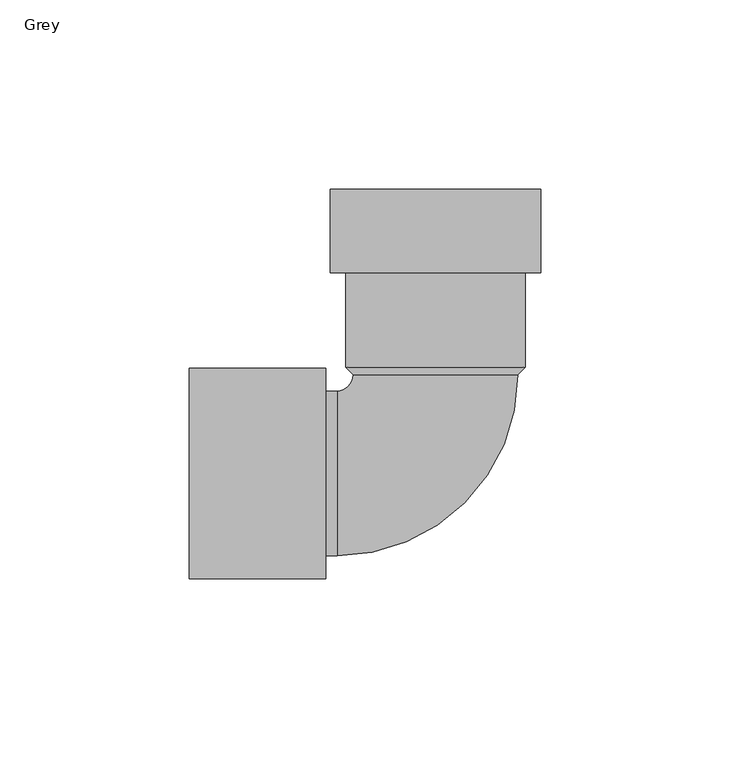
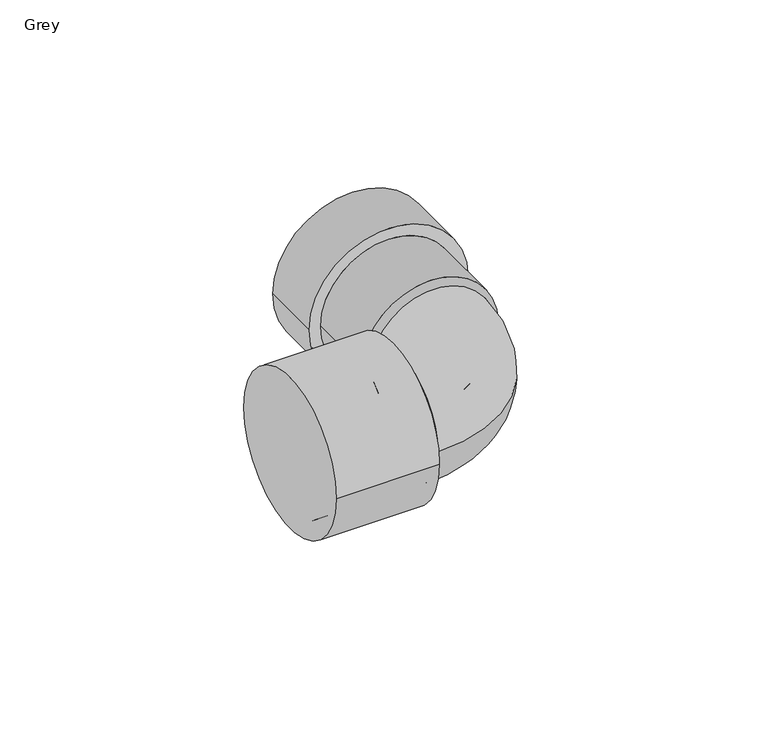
"""IFC4 building model written with IfcOpenShell, lengths in millimetres: pipe fitting geometry, Wavin_PipeFitting_AsPlusBendForLinkManifold : Grey."""

from ifc_helpers import new_model, si_unit, point, frame, origin, origin_2d, place, context, project, spatial, polyline, circle_curve, ellipse_curve, trimmed, segment, composite_curve, outline, extrude, source, transform, mapped, element, save
from ifc_brep_helpers import plane_surface, cylinder_surface, revolved_surface, advanced_brep


def grey_42b30d7e(model_context):
    return source(origin(), model_context, "Body", "SolidModel", [
        advanced_brep(
        [(23.75, 28.0, 0.0), (-23.75, 28.0, 0.0), (-23.75, 53.0, 0.0), (23.75, 53.0, 0.0), (-21.75, 26.0, 0.0), (21.75, 26.0, 0.0), (21.75, 75.0, 0.0), (-21.75, 75.0, 0.0), (27.75, 75.0, 0.0), (-27.75, 75.0, 0.0), (27.75, 53.0, 0.0), (-27.75, 53.0, 0.0)],
        [
            (0, 1, circle_curve(frame((0.0, 28.0, 0.0), z_axis=(0.0, 1.0, 0.0), x_axis=(1.0, 0.0, 0.0)), 23.75)),
            (1, 2),
            (2, 3, circle_curve(frame((0.0, 53.0, 0.0), z_axis=(0.0, -1.0, 0.0), x_axis=(1.0, 0.0, 0.0)), 23.75)),
            (3, 0),
            (4, 5, circle_curve(frame((0.0, 26.0, 0.0), z_axis=(0.0, -1.0, 0.0), x_axis=(1.0, 0.0, 0.0)), 21.75)),
            (5, 6),
            (6, 7, circle_curve(frame((0.0, 75.0, 0.0), z_axis=(0.0, 1.0, 0.0), x_axis=(1.0, 0.0, 0.0)), 21.75)),
            (7, 4),
            (0, 5),
            (4, 1),
            (1, 0, circle_curve(frame((0.0, 28.0, 0.0), z_axis=(0.0, 1.0, 0.0), x_axis=(-1.0, 0.0, 0.0)), 23.75)),
            (3, 2, circle_curve(frame((0.0, 53.0, 0.0), z_axis=(0.0, -1.0, 0.0), x_axis=(-1.0, 0.0, 0.0)), 23.75)),
            (5, 4, circle_curve(frame((0.0, 26.0, 0.0), z_axis=(0.0, -1.0, 0.0), x_axis=(-1.0, 0.0, 0.0)), 21.75)),
            (7, 6, circle_curve(frame((0.0, 75.0, 0.0), z_axis=(0.0, 1.0, 0.0), x_axis=(-1.0, 0.0, 0.0)), 21.75)),
            (8, 9, circle_curve(frame((0.0, 75.0, 0.0), z_axis=(0.0, 1.0, 0.0), x_axis=(-1.0, 0.0, 0.0)), 27.75)),
            (9, 8, circle_curve(frame((0.0, 75.0, 0.0), z_axis=(0.0, 1.0, 0.0), x_axis=(-1.0, 0.0, 0.0)), 27.75)),
            (10, 11, circle_curve(frame((0.0, 53.0, 0.0), z_axis=(0.0, -1.0, 0.0), x_axis=(-1.0, 0.0, 0.0)), 27.75)),
            (11, 10, circle_curve(frame((0.0, 53.0, 0.0), z_axis=(0.0, -1.0, 0.0), x_axis=(-1.0, 0.0, 0.0)), 27.75)),
            (8, 10),
            (11, 9),
        ],
        [
            cylinder_surface(frame((0.0, 28.0, 0.0), z_axis=(0.0, 1.0, 0.0), x_axis=(1.0, 0.0, 0.0)), 23.75),
            revolved_surface(polyline([(21.75, 75.0, 0.0), (21.75, 26.0, 0.0)]), (0.0, 28.0, 0.0), (0.0, 1.0, 0.0)),
            revolved_surface(polyline([(21.75, 26.0, 0.0), (23.75, 28.0, 0.0)]), (0.0, 28.0, 0.0), (0.0, 1.0, 0.0)),
            cylinder_surface(frame((0.0, 28.0, 0.0), z_axis=(0.0, 1.0, 0.0), x_axis=(-1.0, 0.0, 0.0)), 23.75),
            revolved_surface(polyline([(-21.75, 75.0, 0.0), (-21.75, 26.0, 0.0)]), (0.0, 28.0, 0.0), (0.0, 1.0, 0.0)),
            revolved_surface(polyline([(-21.75, 26.0, 0.0), (-23.75, 28.0, 0.0)]), (0.0, 28.0, 0.0), (0.0, 1.0, 0.0)),
            plane_surface(frame((0.0, 75.0, 0.0), z_axis=(0.0, 1.0, 0.0), x_axis=(-1.0, 0.0, 0.0))),
            plane_surface(frame((-23.75, 53.0, 0.0), z_axis=(0.0, -1.0, 0.0), x_axis=(0.0, 0.0, 1.0))),
            cylinder_surface(frame((0.0, 28.0, 0.0), z_axis=(0.0, 1.0, 0.0), x_axis=(-1.0, 0.0, 0.0)), 27.75),
        ],
        [
            (0, [[1, 2, 3, 4]]),
            (1, [[5, 6, 7, 8]]),
            (2, [[-1, 9, -5, 10]]),
            (3, [[11, -4, 12, -2]]),
            (4, [[-6, 13, -8, 14]]),
            (5, [[-9, -11, -10, -13]]),
            (6, [[15, 16], [-7, -14]]),
            (7, [[17, 18], [-3, -12]]),
            (8, [[-15, 19, -18, 20]]),
            (8, [[-16, -20, -17, -19]]),
        ],
    ),
        extrude(outline(composite_curve([segment(trimmed(circle_curve(origin_2d(), 27.8), [point((-27.8, 0.0))], [point((27.8, 0.0))], False, "CARTESIAN"), True, "CONTINUOUS"), segment(trimmed(circle_curve(origin_2d(), 27.8), [point((27.8, 0.0))], [point((-27.8, 0.0))], False, "CARTESIAN"), True, "CONTINUOUS")], self_intersect=False)), frame((-65.0, 0.0, 0.0), z_axis=(1.0, 0.0, 0.0), x_axis=(0.0, 1.0, 0.0)), (0.0, 0.0, 1.0), 36.0),
        advanced_brep(
        [(-65.0, -21.75, 0.0), (-65.0, 21.75, 0.0), (-26.0, -21.75, 0.0), (-26.0, 21.75, 0.0), (-21.75, 26.0, 0.0), (21.75, 26.0, 0.0), (21.75, 28.0, 0.0), (-21.75, 28.0, 0.0)],
        [
            (0, 1, circle_curve(frame((-65.0, 0.0, 0.0), z_axis=(-1.0, 0.0, 0.0), x_axis=(0.0, 1.0, 0.0)), 21.75)),
            (1, 0, circle_curve(frame((-65.0, 0.0, 0.0), z_axis=(-1.0, 0.0, 0.0), x_axis=(0.0, 1.0, 0.0)), 21.75)),
            (0, 2),
            (2, 3, circle_curve(frame((-26.0, 0.0, 0.0), z_axis=(-1.0, 0.0, 0.0), x_axis=(0.0, 1.0, 0.0)), 21.75)),
            (3, 1),
            (3, 2, circle_curve(frame((-26.0, 0.0, 0.0), z_axis=(-1.0, 0.0, 0.0), x_axis=(0.0, 1.0, 0.0)), 21.75)),
            (4, 3, circle_curve(frame((-26.0, 26.0, 0.0), z_axis=(0.0, 0.0, -1.0), x_axis=(0.0, -1.0, 0.0)), 4.25)),
            (2, 5, circle_curve(frame((-26.0, 26.0, 0.0), z_axis=(0.0, 0.0, 1.0), x_axis=(0.0, -1.0, 0.0)), 47.75)),
            (5, 4, circle_curve(frame((0.0, 26.0, 0.0), z_axis=(0.0, -1.0, 0.0), x_axis=(-1.0, 0.0, 0.0)), 21.75)),
            (4, 5, circle_curve(frame((0.0, 26.0, 0.0), z_axis=(0.0, -1.0, 0.0), x_axis=(-1.0, 0.0, 0.0)), 21.75)),
            (6, 7, circle_curve(frame((0.0, 28.0, 0.0), z_axis=(0.0, 1.0, 0.0), x_axis=(-1.0, 0.0, 0.0)), 21.75)),
            (7, 6, circle_curve(frame((0.0, 28.0, 0.0), z_axis=(0.0, 1.0, 0.0), x_axis=(-1.0, 0.0, 0.0)), 21.75)),
            (5, 6),
            (7, 4),
        ],
        [
            plane_surface(frame((-65.0, 0.0, 0.0), z_axis=(-1.0, 0.0, 0.0), x_axis=(0.0, 0.0, 1.0))),
            cylinder_surface(frame((-65.0, 0.0, 0.0), z_axis=(-1.0, 0.0, 0.0), x_axis=(0.0, 1.0, 0.0)), 21.75),
            revolved_surface(trimmed(ellipse_curve(frame((-26.0, 0.0, 0.0), z_axis=(-1.0, 0.0, 0.0), x_axis=(0.0, 1.0, 0.0)), 21.75, 21.75), [point((-26.0, -21.75, 0.0))], [point((-26.0, 21.75, 0.0))], True, "CARTESIAN"), (-26.0, 26.0, 0.0), (0.0, 0.0, 1.0)),
            revolved_surface(trimmed(ellipse_curve(frame((-26.0, 0.0, 0.0), z_axis=(-1.0, 0.0, 0.0), x_axis=(0.0, 1.0, 0.0)), 21.75, 21.75), [point((-26.0, 21.75, 0.0))], [point((-26.0, -21.75, 0.0))], True, "CARTESIAN"), (-26.0, 26.0, 0.0), (0.0, 0.0, 1.0)),
            plane_surface(frame((0.0, 28.0, 0.0), z_axis=(0.0, 1.0, 0.0), x_axis=(0.0, 0.0, 1.0))),
            cylinder_surface(frame((0.0, 26.0, 0.0), z_axis=(0.0, -1.0, 0.0), x_axis=(-1.0, 0.0, 0.0)), 21.75),
        ],
        [
            (0, [[1, 2]]),
            (1, [[-1, 3, 4, 5]]),
            (1, [[-2, -5, 6, -3]]),
            (2, [[7, -4, 8, 9]]),
            (3, [[-8, -6, -7, 10]]),
            (4, [[11, 12]]),
            (5, [[-9, 13, -12, 14]]),
            (5, [[-10, -14, -11, -13]]),
        ],
    ),
    ])


if __name__ == "__main__":
    model = new_model("IFC4")
    model_context = context("Model", 3, world=origin())
    ifc_project = project(units=[si_unit("LENGTHUNIT", "METRE", prefix="MILLI")], contexts=[model_context])
    site = spatial("IfcSite", under=ifc_project)
    building = spatial("IfcBuilding", under=site)
    placement = place(None, origin())
    grey_shape = grey_42b30d7e(model_context)
    element("IfcPipeFitting", 1, ObjectType="Wavin_PipeFitting_AsPlusBendForLinkManifold : Grey", at=placement, inside=building, context=model_context, shape_type="MappedRepresentation", body=[
        mapped(grey_shape, transform((0.0, 0.0, 0.0), x_axis=(1.0, 0.0, 0.0), y_axis=(0.0, 1.0, 0.0), z_axis=(0.0, 0.0, 1.0))),
    ])
    save(model, "model.ifc")
